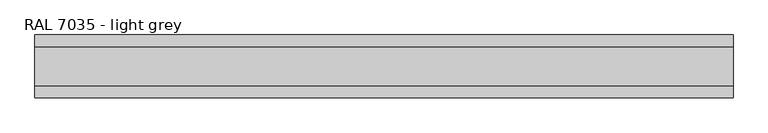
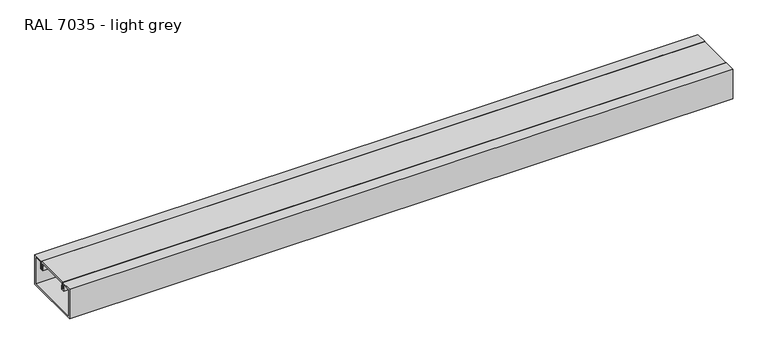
"""IFC4 building model written with IfcOpenShell, lengths in millimetres: proxy geometry, Electrical_Installations_Hager_BRP-Lid-End-Cap-One-Compartment : RAL 7035 - light grey."""

from ifc_helpers import new_model, si_unit, frame, origin, place, context, project, spatial, polyline, outline, extrude, source, transform, mapped, element, save


def ral_7035_light_grey_ba0008b3(model_context):
    return source(origin(), model_context, "Body", "SweptSolid", [
        extrude(outline(polyline([(40.0, 18.6492509), (37.5361498, 18.6492509), (37.5361498, 30.0), (-37.5361498, 30.0), (-37.5361498, 18.6492509), (-40.0, 18.6492509), (-40.0, 33.0), (40.0, 33.0), (40.0, 18.6492509)])), frame((0.0, 0.0, 0.0), z_axis=(1.0, 0.0, 0.0), x_axis=(0.0, 1.0, 0.0)), (0.0, 0.0, 1.0), 1439.4828473),
        extrude(outline(polyline([(65.0, 33.0), (65.0, -35.0582587), (-65.0, -35.0582587), (-65.0, 33.0), (-40.5, 33.0), (-40.5, 16.0), (-36.578125, 16.0), (-36.578125, 24.0415809), (-35.3, 24.0415809), (-35.3, 14.0), (-42.5, 14.0), (-42.5, 30.0), (-62.0, 30.0), (-62.0, -32.0582587), (62.0, -32.0582587), (62.0, 30.0), (42.5, 30.0), (42.5, 14.0), (35.221875, 14.0), (35.221875, 24.0415809), (36.5, 24.0415809), (36.5, 16.0), (40.5, 16.0), (40.5, 33.0), (65.0, 33.0)])), frame((0.0, 0.0, 0.0), z_axis=(1.0, 0.0, 0.0), x_axis=(0.0, 1.0, 0.0)), (0.0, 0.0, 1.0), 1439.4828473),
    ])


if __name__ == "__main__":
    model = new_model("IFC4")
    model_context = context("Model", 3, world=origin())
    ifc_project = project(units=[si_unit("LENGTHUNIT", "METRE", prefix="MILLI")], contexts=[model_context])
    site = spatial("IfcSite", under=ifc_project)
    building = spatial("IfcBuilding", under=site)
    placement = place(None, origin())
    ral_7035_light_grey_shape = ral_7035_light_grey_ba0008b3(model_context)
    element("IfcBuildingElementProxy", 1, Name="Electrical_Installations_Hager_BRP-Lid-End-Cap-One-Compartment : RAL 7035 - light grey", ObjectType="Electrical_Installations_Hager_BRP-Lid-End-Cap-One-Compartment : RAL 7035 - light grey", at=placement, inside=building, context=model_context, shape_type="MappedRepresentation", body=[
        mapped(ral_7035_light_grey_shape, transform((0.0, 0.0, 0.0), x_axis=(1.0, 0.0, 0.0), y_axis=(0.0, 1.0, 0.0), z_axis=(0.0, 0.0, 1.0))),
    ])
    save(model, "model.ifc")
